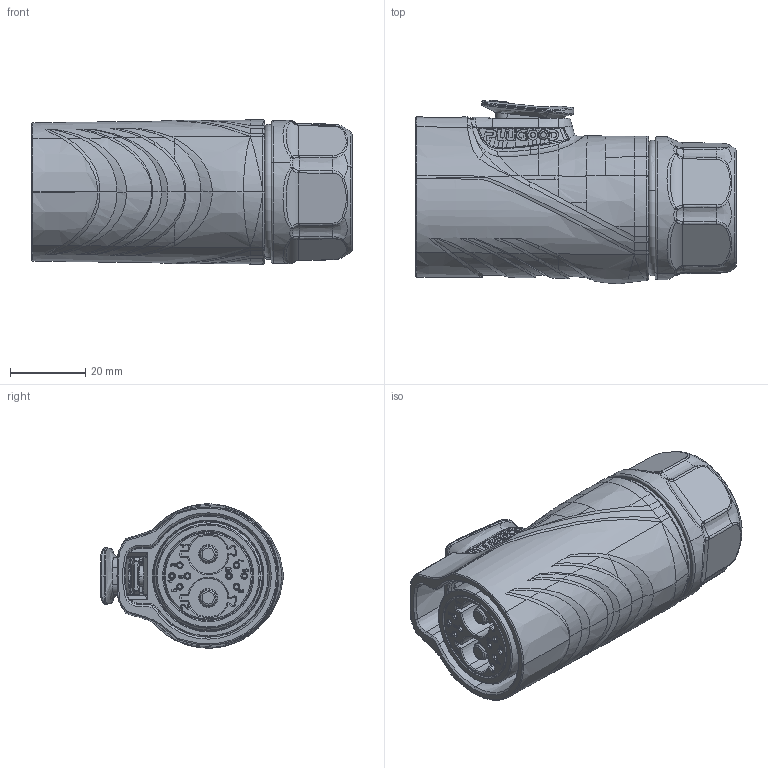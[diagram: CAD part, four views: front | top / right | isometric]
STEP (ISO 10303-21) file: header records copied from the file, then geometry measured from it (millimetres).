
FILE_DESCRIPTION (( 'STEP AP203' ), '1' );
FILE_NAME ('PLG28 2+8郋眻芛脣芛淏蚾.STEP', '2025-12-04T06:32:25', ( '' ), ( '' ), 'SwSTEP 2.0', 'SolidWorks 2024', '' );
FILE_SCHEMA (( 'CONFIG_CONTROL_DESIGN' ));
Products named in the file (1): PLG28 2+8芯直头插头正装
Bounding box: 85 x 48.66 x 38.3 mm (x, y, z)
Volume: 88312.2 mm3; surface area: 24998.8 mm2
Topology: 1 solids, 4 shells, 1636 faces, 4285 edges, 2700 vertices
Faces by surface type: bspline 681, plane 392, cylinder 313, torus 131, cone 97, sphere 22
Entity records: 145094 total; most frequent: CARTESIAN_POINT 110735, ORIENTED_EDGE 8542, DIRECTION 5006, EDGE_CURVE 4271, VERTEX_POINT 2700, B_SPLINE_CURVE_WITH_KNOTS 1955, AXIS2_PLACEMENT_3D 1884, EDGE_LOOP 1715
